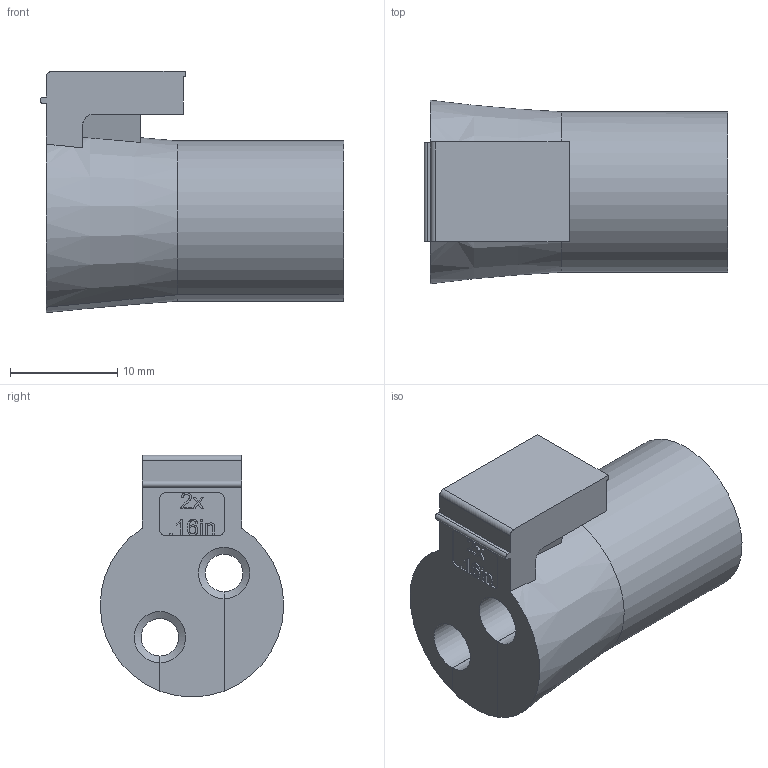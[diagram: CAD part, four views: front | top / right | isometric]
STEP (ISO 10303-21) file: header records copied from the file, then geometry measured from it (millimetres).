
FILE_DESCRIPTION(/* description */ (''),/* implementation_level */ '2;1');
FILE_NAME(/* name */ 'H:\SapWorkDir\Inventor\MP1\ConvertTempPath\87_12_121334_00_A_220525_KDT-X 2x4.stp',/* time_stamp */ '2022-05-25T11:27:55+02:00',/* author */ ('BAUER'),/* organization */ (''),/* preprocessor_version */ 'ST-DEVELOPER v16.13',/* originating_system */ 'Autodesk Inventor 2018',/* authorisation */ '');
FILE_SCHEMA (('AUTOMOTIVE_DESIGN { 1 0 10303 214 3 1 1 }'));
Length unit declared in the file: millimetre
Products named in the file (1): 121334
Bounding box: 28.4 x 17.14 x 22.55 mm (x, y, z)
Volume: 4845.2 mm3; surface area: 3459.9 mm2
Topology: 1 solids, 1 shells, 135 faces, 377 edges, 252 vertices
Faces by surface type: plane 78, bspline 33, cylinder 16, cone 8
Full cylindrical faces by diameter (mm): 15 x1
Entity records: 4521 total; most frequent: CARTESIAN_POINT 1187, ORIENTED_EDGE 750, DIRECTION 556, EDGE_CURVE 375, LINE 252, VECTOR 252, VERTEX_POINT 251, AXIS2_PLACEMENT_3D 152
